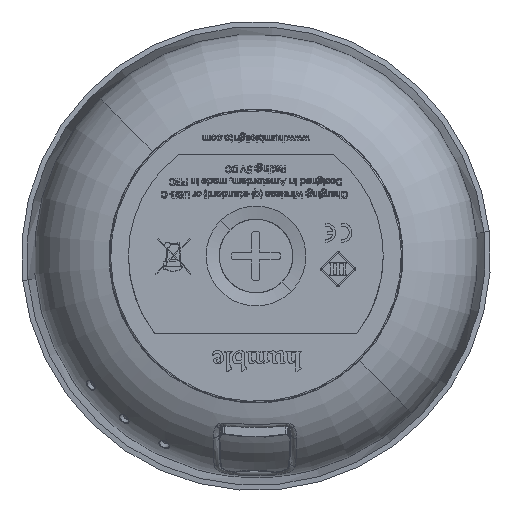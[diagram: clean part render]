
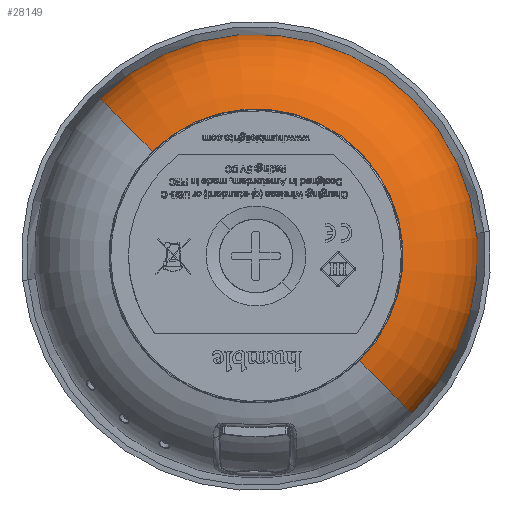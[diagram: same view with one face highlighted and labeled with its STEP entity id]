
A CAD part, front view. The second image highlights one B-rep face of the part: STEP entity #28149.
In plain terms, the highlighted toroidal (fillet/blend) face has major radius 24.7 mm and minor radius 17.5 mm.
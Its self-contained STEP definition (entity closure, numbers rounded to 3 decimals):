
#3170 = CARTESIAN_POINT ( 'NONE',  ( 20.136, 0., 19.733 ) ) ;
#3642 = AXIS2_PLACEMENT_3D ( 'NONE', #18022, #42262, #51236 ) ;
#4569 = ORIENTED_EDGE ( 'NONE', *, *, #54326, .T. ) ;
#6924 = ORIENTED_EDGE ( 'NONE', *, *, #104816, .T. ) ;
#10209 = EDGE_LOOP ( 'NONE', ( #131333, #87631, #6924, #4569, #89873, #13400 ) ) ;
#13400 = ORIENTED_EDGE ( 'NONE', *, *, #123566, .F. ) ;
#16491 = DIRECTION ( 'NONE',  ( 0.711, 0., 0.703 ) ) ;
#18022 = CARTESIAN_POINT ( 'NONE',  ( 17.595, 17.186, -17.518 ) ) ;
#18890 = VERTEX_POINT ( 'NONE', #3170 ) ;
#20651 = AXIS2_PLACEMENT_3D ( 'NONE', #125781, #124391, #29694 ) ;
#26698 = CARTESIAN_POINT ( 'NONE',  ( -17.141, 17.186, 17.608 ) ) ;
#28149 = ADVANCED_FACE ( 'NONE', ( #48403 ), #80332, .T. ) ;
#29694 = DIRECTION ( 'NONE',  ( -0.703, 0., 0.711 ) ) ;
#30047 = EDGE_CURVE ( 'NONE', #123099, #67543, #80911, .T. ) ;
#30060 = AXIS2_PLACEMENT_3D ( 'NONE', #117840, #74995, #86723 ) ;
#30753 = DIRECTION ( 'NONE',  ( 0.711, 0., 0.703 ) ) ;
#37548 = CIRCLE ( 'NONE', #57302, 28. ) ;
#39120 = DIRECTION ( 'NONE',  ( -0.692, 0.175, 0.7 ) ) ;
#42262 = DIRECTION ( 'NONE',  ( 0.711, 0., 0.703 ) ) ;
#48403 = FACE_OUTER_BOUND ( 'NONE', #10209, .T. ) ;
#51236 = DIRECTION ( 'NONE',  ( 0.133, -0.982, -0.134 ) ) ;
#52835 = DIRECTION ( 'NONE',  ( 0., 1., 0. ) ) ;
#54326 = EDGE_CURVE ( 'NONE', #18890, #79286, #131613, .T. ) ;
#57302 = AXIS2_PLACEMENT_3D ( 'NONE', #81856, #115637, #62433 ) ;
#62433 = DIRECTION ( 'NONE',  ( -0.703, 0., 0.711 ) ) ;
#67543 = VERTEX_POINT ( 'NONE', #133905 ) ;
#72738 = AXIS2_PLACEMENT_3D ( 'NONE', #101550, #100870, #16491 ) ;
#74923 = CIRCLE ( 'NONE', #72738, 41.93 ) ;
#74966 = CARTESIAN_POINT ( 'NONE',  ( 0.227, 20.247, 0.045 ) ) ;
#74995 = DIRECTION ( 'NONE',  ( 0., 1., 0. ) ) ;
#78044 = VERTEX_POINT ( 'NONE', #94541 ) ;
#79286 = VERTEX_POINT ( 'NONE', #95431 ) ;
#80332 = TOROIDAL_SURFACE ( 'NONE', #20651, 24.7, 17.5 ) ;
#80911 = CIRCLE ( 'NONE', #125008, 17.5 ) ;
#81856 = CARTESIAN_POINT ( 'NONE',  ( 0.227, 0., 0.045 ) ) ;
#86723 = DIRECTION ( 'NONE',  ( 0.711, 0., 0.703 ) ) ;
#87631 = ORIENTED_EDGE ( 'NONE', *, *, #30047, .T. ) ;
#89873 = ORIENTED_EDGE ( 'NONE', *, *, #90497, .T. ) ;
#90497 = EDGE_CURVE ( 'NONE', #79286, #130233, #107362, .T. ) ;
#94304 = EDGE_CURVE ( 'NONE', #78044, #123099, #74923, .T. ) ;
#94541 = CARTESIAN_POINT ( 'NONE',  ( 30.041, 20.247, 29.528 ) ) ;
#95431 = CARTESIAN_POINT ( 'NONE',  ( 19.915, 0., -19.864 ) ) ;
#100870 = DIRECTION ( 'NONE',  ( 0., -1., 0. ) ) ;
#101550 = CARTESIAN_POINT ( 'NONE',  ( 0.227, 20.247, 0.045 ) ) ;
#104816 = EDGE_CURVE ( 'NONE', #67543, #18890, #37548, .T. ) ;
#107362 = CIRCLE ( 'NONE', #3642, 17.5 ) ;
#111699 = DIRECTION ( 'NONE',  ( 0.711, 0., 0.703 ) ) ;
#113558 = CIRCLE ( 'NONE', #126899, 41.93 ) ;
#115637 = DIRECTION ( 'NONE',  ( 0., 1., 0. ) ) ;
#117840 = CARTESIAN_POINT ( 'NONE',  ( 0.227, 0., 0.045 ) ) ;
#123099 = VERTEX_POINT ( 'NONE', #126564 ) ;
#123397 = CARTESIAN_POINT ( 'NONE',  ( 29.71, 20.247, -29.769 ) ) ;
#123566 = EDGE_CURVE ( 'NONE', #78044, #130233, #113558, .T. ) ;
#124391 = DIRECTION ( 'NONE',  ( 0., -1., 0. ) ) ;
#125008 = AXIS2_PLACEMENT_3D ( 'NONE', #26698, #111699, #39120 ) ;
#125781 = CARTESIAN_POINT ( 'NONE',  ( 0.227, 17.186, 0.045 ) ) ;
#126564 = CARTESIAN_POINT ( 'NONE',  ( -29.256, 20.247, 29.859 ) ) ;
#126899 = AXIS2_PLACEMENT_3D ( 'NONE', #74966, #52835, #30753 ) ;
#130233 = VERTEX_POINT ( 'NONE', #123397 ) ;
#131333 = ORIENTED_EDGE ( 'NONE', *, *, #94304, .T. ) ;
#131613 = CIRCLE ( 'NONE', #30060, 28. ) ;
#133905 = CARTESIAN_POINT ( 'NONE',  ( -19.461, 0., 19.954 ) ) ;
